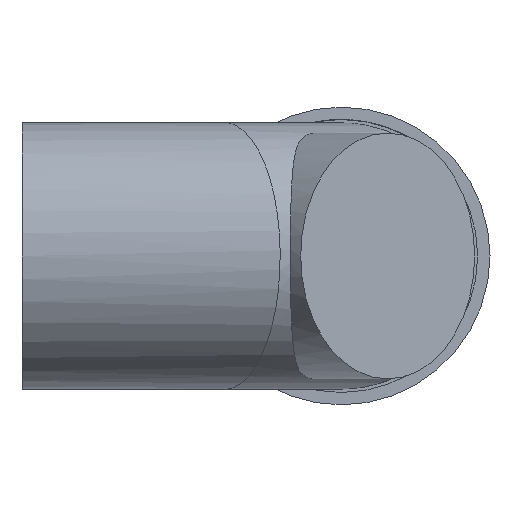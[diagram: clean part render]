
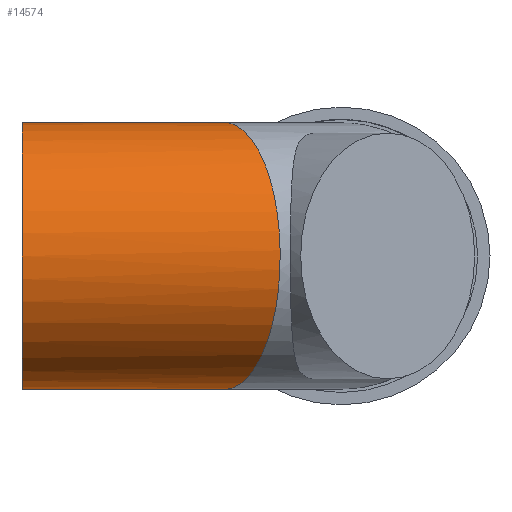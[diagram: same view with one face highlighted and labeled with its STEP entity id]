
A CAD part, front view. The second image highlights one B-rep face of the part: STEP entity #14574.
In plain terms, the highlighted cylindrical face has radius 54.991 mm (diameter 109.982 mm), a full revolution.
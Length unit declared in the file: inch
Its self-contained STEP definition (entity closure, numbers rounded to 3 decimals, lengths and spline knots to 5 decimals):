
#14508=CARTESIAN_POINT('',(-1.88858,0.,-2.165));
#14509=VERTEX_POINT('',#14508);
#14510=CARTESIAN_POINT('',(-1.88858,0.,2.165));
#14511=VERTEX_POINT('',#14510);
#14512=CARTESIAN_POINT('',(-1.88858,0.0,0.0));
#14513=DIRECTION('',(-0.924,-0.383,0.0));
#14514=DIRECTION('',(-0.383,0.924,0.0));
#14515=AXIS2_PLACEMENT_3D('',#14512,#14513,#14514);
#14516=ELLIPSE('',#14515,2.34338,2.165);
#14517=EDGE_CURVE('',#14509,#14511,#14516,.T.);
#14519=CARTESIAN_POINT('',(-1.88858,0.0,0.0));
#14520=DIRECTION('',(-0.924,-0.383,0.0));
#14521=DIRECTION('',(-0.383,0.924,0.0));
#14522=AXIS2_PLACEMENT_3D('',#14519,#14520,#14521);
#14523=ELLIPSE('',#14522,2.34338,2.165);
#14524=EDGE_CURVE('',#14511,#14509,#14523,.T.);
#14554=CARTESIAN_POINT('',(-5.19,0.0,0.0));
#14555=DIRECTION('',(1.0,0.0,0.0));
#14556=DIRECTION('',(0.0,1.0,0.0));
#14557=AXIS2_PLACEMENT_3D('',#14554,#14555,#14556);
#14558=CYLINDRICAL_SURFACE('',#14557,2.165);
#14559=ORIENTED_EDGE('',*,*,#14517,.T.);
#14560=ORIENTED_EDGE('',*,*,#14524,.T.);
#14561=EDGE_LOOP('',(#14559,#14560));
#14562=FACE_OUTER_BOUND('',#14561,.T.);
#14563=CARTESIAN_POINT('',(-5.19,-2.165,0.));
#14564=VERTEX_POINT('',#14563);
#14565=CARTESIAN_POINT('',(-5.19,0.0,0.0));
#14566=DIRECTION('',(1.0,0.0,0.0));
#14567=DIRECTION('',(0.0,1.0,0.0));
#14568=AXIS2_PLACEMENT_3D('',#14565,#14566,#14567);
#14569=CIRCLE('',#14568,2.165);
#14570=EDGE_CURVE('',#14564,#14564,#14569,.T.);
#14571=ORIENTED_EDGE('',*,*,#14570,.T.);
#14572=EDGE_LOOP('',(#14571));
#14573=FACE_BOUND('',#14572,.T.);
#14574=ADVANCED_FACE('',(#14562,#14573),#14558,.T.);
